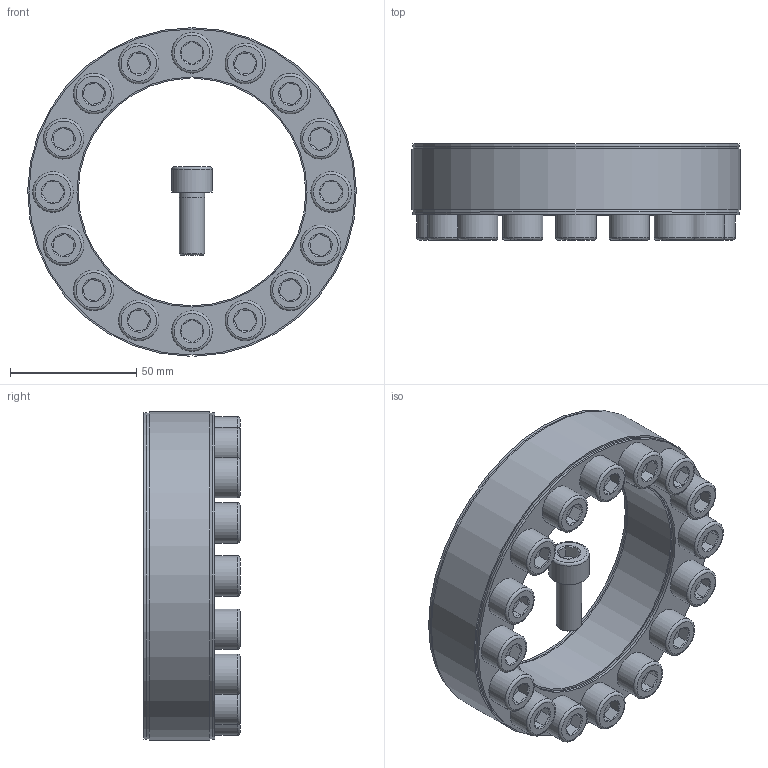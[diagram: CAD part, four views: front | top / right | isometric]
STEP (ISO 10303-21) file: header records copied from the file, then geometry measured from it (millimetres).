
FILE_DESCRIPTION( ( 'Unknown' ), '1' );
FILE_NAME( 'C:/Dokumente und Einstellungen/Sven/Desktop/homepage/cad - homepage/KBS40/KBS 40 - 90 x 130.stp', 'Unknown', ( 'Unknown' ), ( 'Unknown' ), 'XStep 1.0', 'Unknown', ' ' );
FILE_SCHEMA( ( 'automotive_design' ) );
Length unit declared in the file: millimetre
Products named in the file (18): Assem1; KBS 40 90x130; ISO 4762 M10x25; ISO 4762 M10x25-oa0; ISO 4762 M10x25-oa1; ISO 4762 M10x25-oa2; ISO 4762 M10x25-oa3; ISO 4762 M10x25-oa4; ISO 4762 M10x25-oa5; ISO 4762 M10x25-oa6; ISO 4762 M10x25-oa7; ISO 4762 M10x25-oa8; ISO 4762 M10x25-oa9; ISO 4762 M10x25-oa10; ISO 4762 M10x25-oa11; ISO 4762 M10x25-oa12; ISO 4762 M10x25-oa13; ISO 4762 M10x25-oa14
Bounding box: 130 x 38 x 129.99 mm (x, y, z)
Volume: 431097.1 mm3; surface area: 148594 mm2
Topology: 34 solids, 34 shells, 892 faces, 1644 edges, 948 vertices
Faces by surface type: plane 424, cone 232, cylinder 172, torus 64
Full cylindrical faces by diameter (mm): 9 x32, 10 x96, 16 x32, 91 x4, 129 x4
Entity records: 10927 total; most frequent: CARTESIAN_POINT 2292, DIRECTION 1808, ORIENTED_EDGE 1304, AXIS2_PLACEMENT_3D 788, EDGE_LOOP 680, EDGE_CURVE 652, FACE_OUTER_BOUND 562, ADVANCED_FACE 446
